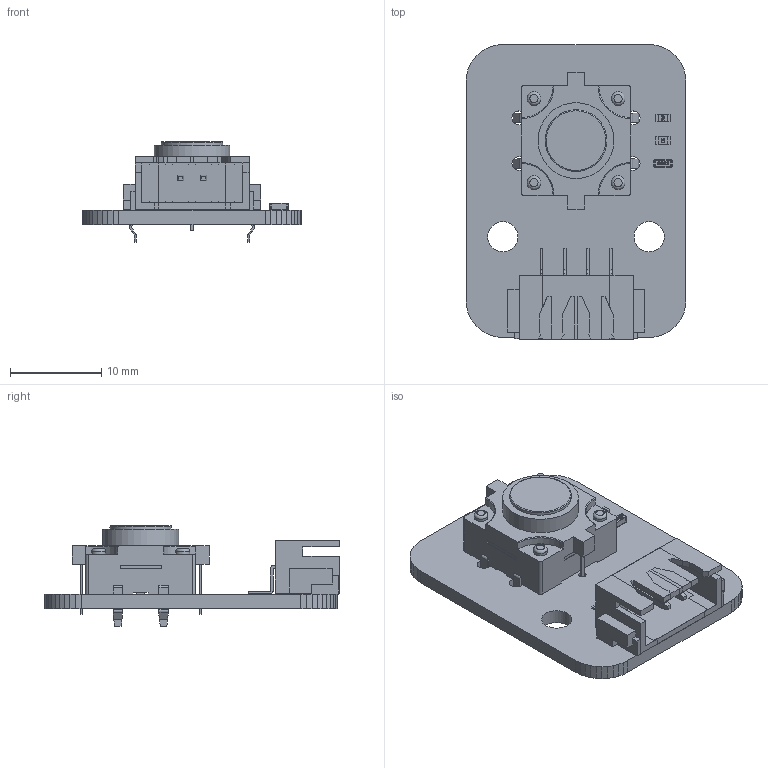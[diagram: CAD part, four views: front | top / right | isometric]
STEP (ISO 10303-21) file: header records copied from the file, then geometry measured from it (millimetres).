
FILE_DESCRIPTION(('Open CASCADE Model'),'2;1');
FILE_NAME('Open CASCADE Shape Model','2024-10-14T16:37:42',('Author'),( 'Open CASCADE'),'Open CASCADE STEP processor 6.5','Open CASCADE 6.5' ,'Unknown');
FILE_SCHEMA(('AUTOMOTIVE_DESIGN { 1 0 10303 214 1 1 1 1 }'));
Length unit declared in the file: millimetre
Products named in the file (11): PCB; Board; R1; 0603_R; C1; User_Library-0603(1608M)_Cap; D1; 12mm_湍腑LED; P3; 4pin-2.5; R2
Assembly tree (11 placements, depth 3):
  PCB
    Board
    R1
      0603_R
    C1
      User_Library-0603(1608M)_Cap
    D1
      12mm_湍腑LED
    P3
      4pin-2.5
    R2
      0603_R
Bounding box: 24.02 x 32.25 x 11 mm (x, y, z)
Volume: 2313.2 mm3; surface area: 3439.1 mm2
Topology: 9 solids, 9 shells, 1110 faces, 3084 edges, 2037 vertices
Faces by surface type: plane 921, cylinder 97, bspline 72, extrusion 10, torus 9, cone 1
Full cylindrical faces by diameter (mm): 0.8 x2, 1.5 x8, 3.3 x2, 8.3 x1
Entity records: 83039 total; most frequent: CARTESIAN_POINT 21270, DIRECTION 10096, VECTOR 7514, LINE 7509, ORIENTED_EDGE 5960, PCURVE 5960, DEFINITIONAL_REPRESENTATION 5960, EDGE_CURVE 2980
